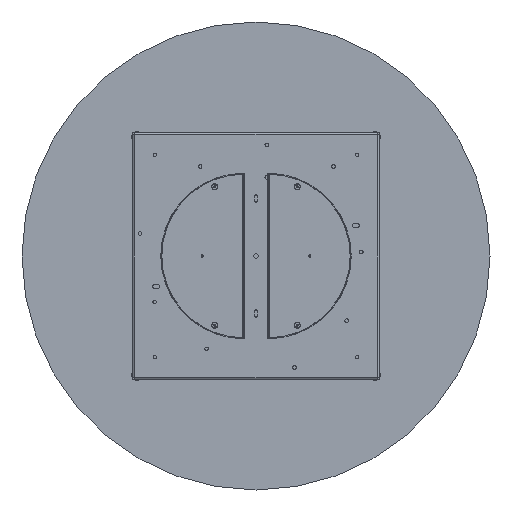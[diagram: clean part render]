
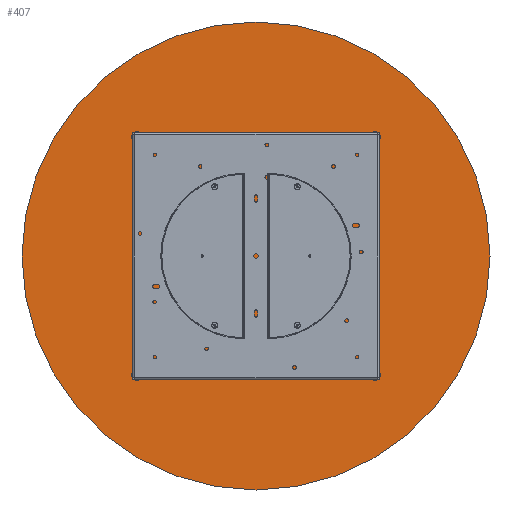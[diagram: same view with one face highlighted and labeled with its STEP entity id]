
A CAD part, front view. The second image highlights one B-rep face of the part: STEP entity #407.
In plain terms, the highlighted planar face has unit normal (0, -1, 0).
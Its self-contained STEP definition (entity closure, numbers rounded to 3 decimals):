
#341 = CARTESIAN_POINT ( 'NONE',  ( 0., 0., 0. ) ) ;
#407 = ADVANCED_FACE ( 'NONE', ( #10176 ), #6778, .T. ) ;
#751 = EDGE_CURVE ( 'NONE', #13205, #9105, #9251, .T. ) ;
#1276 = DIRECTION ( 'NONE',  ( 0., 0., -1. ) ) ;
#2985 = EDGE_LOOP ( 'NONE', ( #5861, #14554 ) ) ;
#3964 = AXIS2_PLACEMENT_3D ( 'NONE', #341, #12696, #11569 ) ;
#4001 = DIRECTION ( 'NONE',  ( 0., -1., 0. ) ) ;
#5551 = CIRCLE ( 'NONE', #8178, 650. ) ;
#5734 = CARTESIAN_POINT ( 'NONE',  ( 0., 0., 650. ) ) ;
#5861 = ORIENTED_EDGE ( 'NONE', *, *, #751, .T. ) ;
#6554 = CARTESIAN_POINT ( 'NONE',  ( 0., 0., 0. ) ) ;
#6778 = PLANE ( 'NONE',  #10698 ) ;
#7111 = EDGE_CURVE ( 'NONE', #9105, #13205, #5551, .T. ) ;
#8178 = AXIS2_PLACEMENT_3D ( 'NONE', #6554, #4001, #13204 ) ;
#9105 = VERTEX_POINT ( 'NONE', #5734 ) ;
#9251 = CIRCLE ( 'NONE', #3964, 650. ) ;
#10176 = FACE_OUTER_BOUND ( 'NONE', #2985, .T. ) ;
#10698 = AXIS2_PLACEMENT_3D ( 'NONE', #11532, #13787, #1276 ) ;
#11532 = CARTESIAN_POINT ( 'NONE',  ( 0., 0., 0. ) ) ;
#11569 = DIRECTION ( 'NONE',  ( 0., 0., -1. ) ) ;
#12696 = DIRECTION ( 'NONE',  ( 0., -1., 0. ) ) ;
#12977 = CARTESIAN_POINT ( 'NONE',  ( 0., 0., -650. ) ) ;
#13204 = DIRECTION ( 'NONE',  ( 0., 0., -1. ) ) ;
#13205 = VERTEX_POINT ( 'NONE', #12977 ) ;
#13787 = DIRECTION ( 'NONE',  ( 0., -1., 0. ) ) ;
#14554 = ORIENTED_EDGE ( 'NONE', *, *, #7111, .T. ) ;
